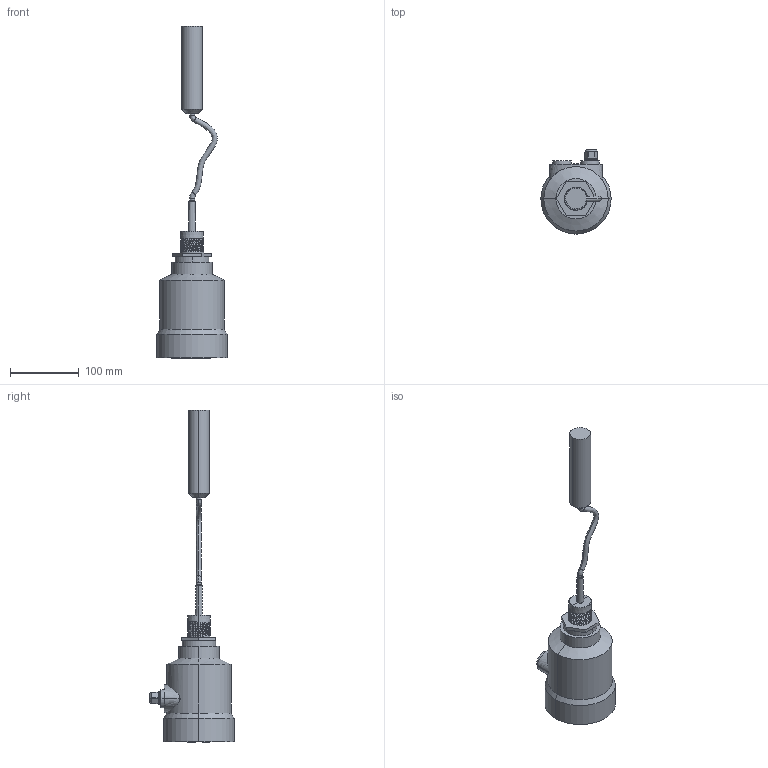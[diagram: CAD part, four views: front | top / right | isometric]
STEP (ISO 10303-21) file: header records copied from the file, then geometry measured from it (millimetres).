
FILE_DESCRIPTION((''),'2;1');
FILE_NAME('0007_ASM','2025-12-30T14:44:33',('28740194'),(''),'CREO PARAMETRIC BY PTC INC, 2024063','CREO PARAMETRIC BY PTC INC, 2024063','');
FILE_SCHEMA(('CONFIG_CONTROL_DESIGN'));
Length unit declared in the file: millimetre
Products named in the file (11): 00; EV214_27005336_DUMMY; EV214_27005336_02; EV214_27005336_03; EV214_27005336_04; EV214_27005336_06; EV214_27005336_07; EV214_27005336_ASM; 1; 2; 0007_ASM
Assembly tree (10 placements, depth 3):
  0007_ASM
    00
    EV214_27005336_ASM
      EV214_27005336_DUMMY
      EV214_27005336_02
      EV214_27005336_03
      EV214_27005336_04
      EV214_27005336_06
      EV214_27005336_07
    1
    2
Bounding box: 101.93 x 121.97 x 481.17 mm (x, y, z)
Volume: 1078824.8 mm3; surface area: 89276.8 mm2
Topology: 8 solids, 12 shells, 573 faces, 1557 edges, 1026 vertices
Faces by surface type: plane 423, cylinder 82, cone 42, bspline 16, torus 8, extrusion 2
Entity records: 21671 total; most frequent: CARTESIAN_POINT 6832, ORIENTED_EDGE 3082, DIRECTION 2969, EDGE_CURVE 1549, VECTOR 1147, LINE 1145, VERTEX_POINT 1025, AXIS2_PLACEMENT_3D 911
